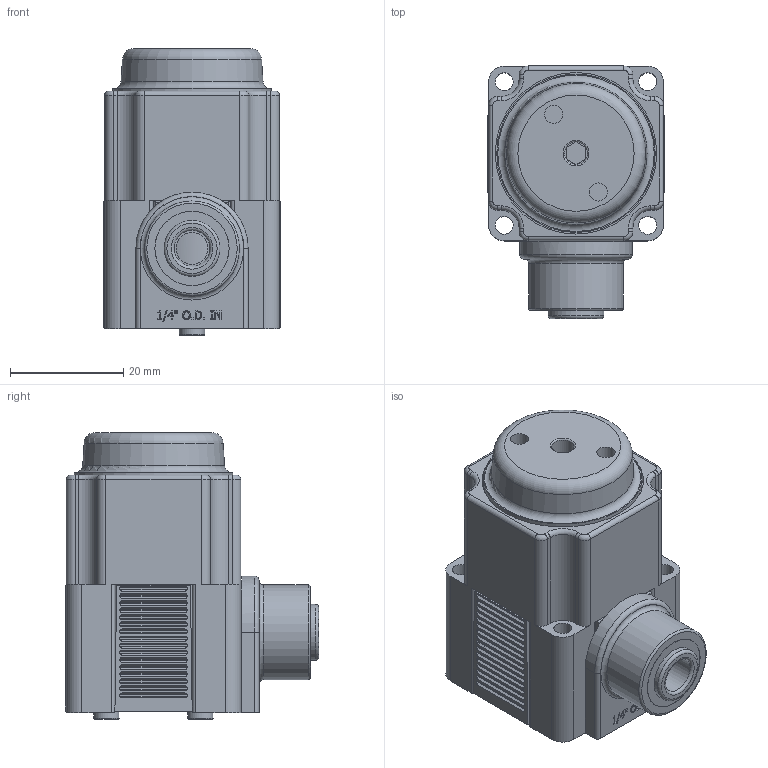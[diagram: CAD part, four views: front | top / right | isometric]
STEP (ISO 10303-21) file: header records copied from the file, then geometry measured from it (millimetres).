
FILE_DESCRIPTION(/* description */ (''),/* implementation_level */ '2;1');
FILE_NAME(/* name */ 'K:\Normteile INVENTOR\Air-Logic\Regulators\PR6000\PR 6___ 5 Push-In Fitting for 1''4 O.D. Tube In.igs.ipt.stp',/* time_stamp */ '2020-05-27T10:52:57+02:00',/* author */ ('Paul'),/* organization */ (''),/* preprocessor_version */ 'ST-DEVELOPER v18',/* originating_system */ 'Autodesk Inventor 2020',/* authorisation */ '');
FILE_SCHEMA (('AUTOMOTIVE_DESIGN { 1 0 10303 214 3 1 1 }'));
Length unit declared in the file: inch
Products named in the file (1): PR 6___ 5 Push-In Fitting for 1'4 O.D. Tube In.igs
Bounding box: 31.19 x 44.8 x 50.78 mm (x, y, z)
Volume: 41901.9 mm3; surface area: 14625.6 mm2
Topology: 1 solids, 1 shells, 769 faces, 1983 edges, 1307 vertices
Faces by surface type: plane 415, cylinder 274, bspline 43, torus 34, cone 3
Full cylindrical faces by diameter (mm): 1.194 x1, 2.032 x1, 3.124 x2, 3.175 x8, 3.226 x2, 4.013 x1, 4.521 x2, 5.639 x1, 6.35 x1, 8.382 x2, 9.169 x1, 9.398 x1, 9.906 x1, 12.903 x1, 13.132 x1, 13.144 x1, 16.764 x1, 25.781 x1, 28.047 x1, 28.575 x1
Entity records: 27597 total; most frequent: CARTESIAN_POINT 7614, DIRECTION 4091, ORIENTED_EDGE 3966, EDGE_CURVE 1983, AXIS2_PLACEMENT_3D 1558, VERTEX_POINT 1307, LINE 975, VECTOR 975
